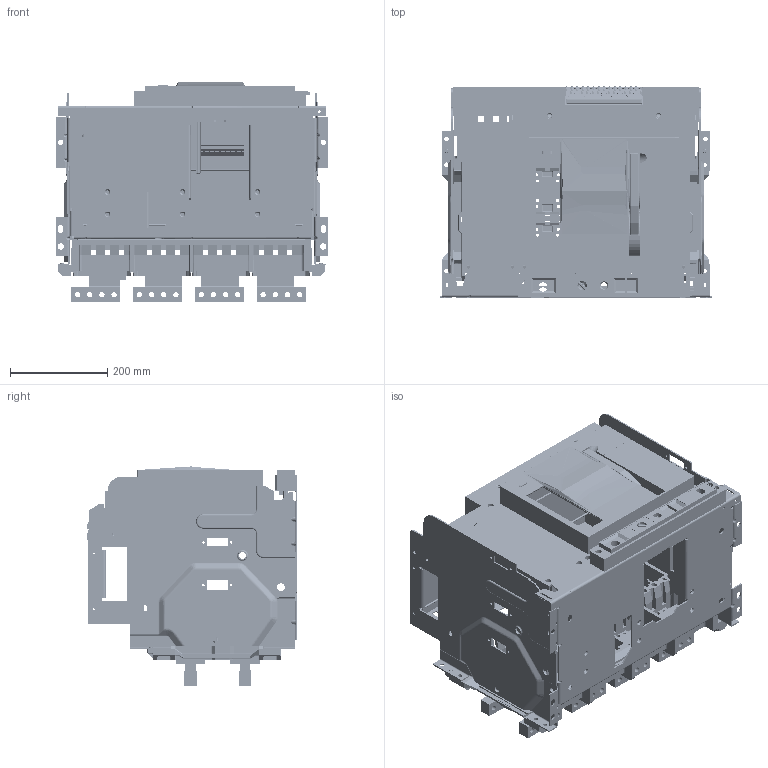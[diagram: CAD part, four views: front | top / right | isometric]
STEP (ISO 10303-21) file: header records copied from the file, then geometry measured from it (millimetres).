
FILE_DESCRIPTION((''),'2;1');
FILE_NAME('NA8G-3200-DO-3200-4P_ASM','2020-05-13T08:39:01',('lcc'),(''),'CREO PARAMETRIC BY PTC INC, 2018020','CREO PARAMETRIC BY PTC INC, 2018020','');
FILE_SCHEMA(('CONFIG_CONTROL_DESIGN','SHAPE_APPEARANCE_LAYERS_GROUPS'));
Products named in the file (45): 8-055-093; 8-050-238; 8-050-239; 8-300-151-; SHIZ45FFX1IW; DW45-3200-DIJIA-4P_ASM; 8ZTD-300-043; 8ZTD-227-004; 8ZTD-860-049-2; 8ZTD-235-048; 8-060-145-4; 8-253-034; 8-253-289; 8-253-290; 8-253-309; 8-060-140; 8ZTD-064-136; 8ZTD-024-689; 8ZTD-557-554; 8ZTD-557-552; 8ZTD-557-553; 8ZTD-557-555; GBT6170-M3; GBT818-M3X8; 5ZTD-558-366_ASM; 8ZTD-860-511; 5ZTD-558-365_ASM; 8ZTD-300-253; 8ZTD-580-221-1; 8ZTD-580-286; 8ZTD-580-287; 8ZTD-580-285; 8ZTD-024-837; 8ZTD-557-514; 8ZTD-557-515; 8ZTD-557-516; 8ZTD-557-517; M3_GB6170; M3X8_GB818; 8ZTD-141-185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
Assembly tree (95 placements, depth 4):
  NA8G-3200-DO-3200-4P_ASM
    8-055-093
    8-050-238
    8-050-239
    8-300-151-
    DW45-3200-DIJIA-4P_ASM
      SHIZ45FFX1IW
    8ZTD-300-043
    8ZTD-227-004
    8ZTD-860-049-2
    8ZTD-235-048
    8-060-145-4
    8-253-034
    8-253-289
    8-253-290
    8-253-309
    8-060-140
    5ZTD-558-365_ASM
      8ZTD-064-136
      5ZTD-558-366_ASM  x14
        8ZTD-024-689
        8ZTD-557-554
        8ZTD-557-552
        8ZTD-557-553
        8ZTD-557-555
        GBT6170-M3
        GBT818-M3X8
      8ZTD-860-511
    8ZTD-300-253
    8ZTD-580-221-1  x8
    8ZTD-580-286  x2
    8ZTD-580-287  x2
    8ZTD-580-285  x4
    5ZTD-558-695-4000_ASM
      5ZTD-558-712_ASM  x14
        8ZTD-024-837
        8ZTD-557-514
        8ZTD-557-515
        8ZTD-557-516
        8ZTD-557-517
        M3_GB6170
        M3X8_GB818
        8ZTD-141-185
        8ZTD-141-184
      8ZTD-860-699
      8ZTD-064-136
Bounding box: 558 x 433.03 x 450 mm (x, y, z)
Volume: 9081965.9 mm3; surface area: 4721170.5 mm2
Topology: 427 solids, 552 shells, 30204 faces, 80718 edges, 51894 vertices
Faces by surface type: plane 20092, cylinder 6043, cone 1982, bspline 1111, torus 533, sphere 443
Entity records: 320673 total; most frequent: CARTESIAN_POINT 61217, ORIENTED_EDGE 44464, DIRECTION 42135, EDGE_CURVE 22275, VECTOR 16767, LINE 16767, PRESENTATION_STYLE_ASSIGNMENT 15579, STYLED_ITEM 15575
